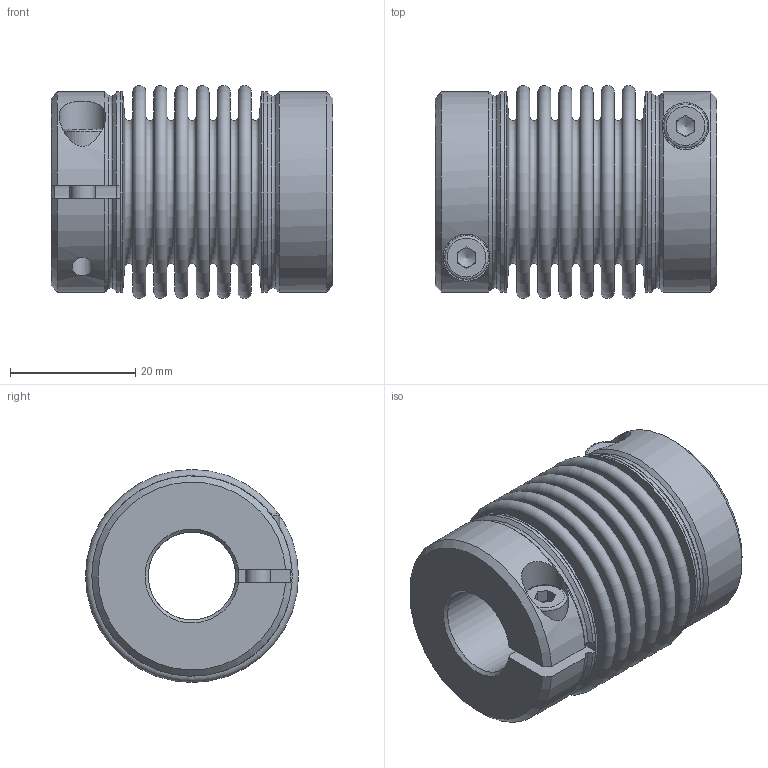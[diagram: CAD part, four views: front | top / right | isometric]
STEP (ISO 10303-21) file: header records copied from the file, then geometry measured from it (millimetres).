
FILE_DESCRIPTION(/* description */ ('Unknown','CAx-IF Rec.Pracs.---Representation and Presentation of Product Manufacturing Information (PMI)---4.0---2014-10-13','CAx-IF Rec.Pracs.---3D Tessellated Geometry---0.4---2014-09-14','2;1'),/* implementation_level */ '2;1');
FILE_NAME(/* name */ 'MB-13324687',/* time_stamp */ '2023-07-20T08:13:42+02:00',/* author */ ('Unknown'),/* organization */ ('Unknown'),/* preprocessor_version */ 'ST-DEVELOPER v18.102',/* originating_system */ 'Solid Edge',/* authorisation */ 'Unknown');
FILE_SCHEMA (('AP242_MANAGED_MODEL_BASED_3D_ENGINEERING_MIM_LF { 1 0 10303 442 1 1 4 }'));
Length unit declared in the file: millimetre
Products named in the file (4): MB-13324687; 20721881; 28821873; kt103116
Assembly tree (5 placements, depth 2):
  MB-13324687
    20721881
    28821873  x2
    kt103116  x2
Bounding box: 44.97 x 34 x 34 mm (x, y, z)
Volume: 16058.4 mm3; surface area: 23331.5 mm2
Topology: 5 solids, 5 shells, 142 faces, 298 edges, 192 vertices
Faces by surface type: plane 66, torus 30, cylinder 24, cone 22
Full cylindrical faces by diameter (mm): 3.3 x2, 4 x6, 4.3 x2, 7 x2, 7.5 x2, 31.6 x2, 32 x2
Entity records: 2477 total; most frequent: CARTESIAN_POINT 446, DIRECTION 438, ORIENTED_EDGE 282, AXIS2_PLACEMENT_3D 202, FACE_BOUND 181, EDGE_LOOP 178, EDGE_CURVE 141, VERTEX_POINT 120
